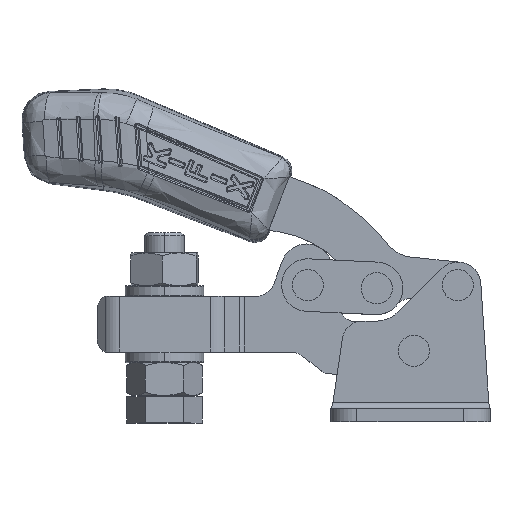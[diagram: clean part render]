
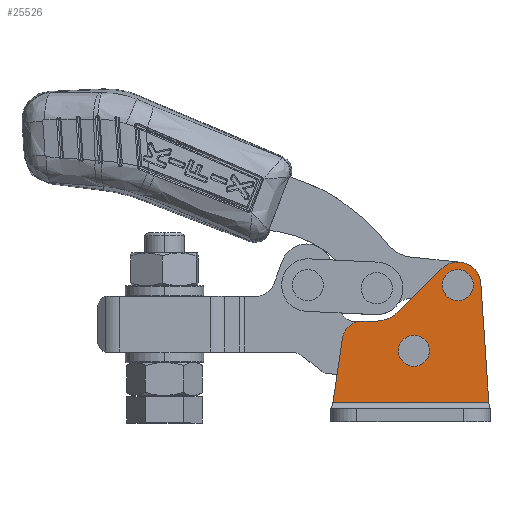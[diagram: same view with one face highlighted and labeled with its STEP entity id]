
A CAD part, top view. The second image highlights one B-rep face of the part: STEP entity #25526.
In plain terms, the highlighted planar face has unit normal (0, 0, 1).
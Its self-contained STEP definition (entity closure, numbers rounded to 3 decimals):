
#190 = DIRECTION ( 'NONE',  ( 0., 0., 1. ) ) ;
#612 = CARTESIAN_POINT ( 'NONE',  ( -5.321, 23.14, 0. ) ) ;
#789 = LINE ( 'NONE', #5361, #7930 ) ;
#920 = AXIS2_PLACEMENT_3D ( 'NONE', #5537, #24463, #8236 ) ;
#1231 = EDGE_CURVE ( 'NONE', #3444, #31361, #7489, .T. ) ;
#1831 = AXIS2_PLACEMENT_3D ( 'NONE', #27878, #11710, #30658 ) ;
#3003 = EDGE_CURVE ( 'NONE', #19864, #24804, #27358, .T. ) ;
#3444 = VERTEX_POINT ( 'NONE', #5146 ) ;
#3500 = CIRCLE ( 'NONE', #34537, 1.575 ) ;
#3759 = EDGE_CURVE ( 'NONE', #16040, #6485, #31187, .T. ) ;
#3969 = VERTEX_POINT ( 'NONE', #10411 ) ;
#4069 = EDGE_LOOP ( 'NONE', ( #33923, #34648, #5128, #34541, #11483, #22209, #22010, #32417 ) ) ;
#4071 = EDGE_LOOP ( 'NONE', ( #24483, #5575 ) ) ;
#4834 = CIRCLE ( 'NONE', #29549, 1.575 ) ;
#4857 = DIRECTION ( 'NONE',  ( 0., 0., 1. ) ) ;
#4987 = AXIS2_PLACEMENT_3D ( 'NONE', #14666, #33595, #17388 ) ;
#5128 = ORIENTED_EDGE ( 'NONE', *, *, #24209, .T. ) ;
#5132 = CARTESIAN_POINT ( 'NONE',  ( 2.134, 18.64, 0. ) ) ;
#5146 = CARTESIAN_POINT ( 'NONE',  ( 11.96, 10.827, 0. ) ) ;
#5361 = CARTESIAN_POINT ( 'NONE',  ( 4.786, 31.124, 0. ) ) ;
#5537 = CARTESIAN_POINT ( 'NONE',  ( 0.559, 18.64, 0. ) ) ;
#5575 = ORIENTED_EDGE ( 'NONE', *, *, #3003, .F. ) ;
#5715 = CIRCLE ( 'NONE', #22520, 3. ) ;
#6485 = VERTEX_POINT ( 'NONE', #17641 ) ;
#6698 = EDGE_CURVE ( 'NONE', #12925, #9263, #789, .T. ) ;
#7489 = LINE ( 'NONE', #19132, #21086 ) ;
#7930 = VECTOR ( 'NONE', #21593, 1000. ) ;
#8236 = DIRECTION ( 'NONE',  ( 1., 0., 0. ) ) ;
#8734 = DIRECTION ( 'NONE',  ( -0.143, -0.99, 0. ) ) ;
#9263 = VERTEX_POINT ( 'NONE', #24762 ) ;
#9718 = LINE ( 'NONE', #19598, #23295 ) ;
#10411 = CARTESIAN_POINT ( 'NONE',  ( -7.37, 23.14, 0. ) ) ;
#10659 = AXIS2_PLACEMENT_3D ( 'NONE', #29622, #13434, #32387 ) ;
#10900 = DIRECTION ( 'NONE',  ( -1., 0., 0. ) ) ;
#11248 = EDGE_CURVE ( 'NONE', #29792, #31361, #30655, .T. ) ;
#11345 = CARTESIAN_POINT ( 'NONE',  ( -1.016, 18.64, 0. ) ) ;
#11393 = VECTOR ( 'NONE', #28846, 1000. ) ;
#11483 = ORIENTED_EDGE ( 'NONE', *, *, #24843, .T. ) ;
#11589 = CARTESIAN_POINT ( 'NONE',  ( 10.743, 28.875, 0. ) ) ;
#11710 = DIRECTION ( 'NONE',  ( 0., 0., 1. ) ) ;
#11953 = DIRECTION ( 'NONE',  ( 1., 0., 0. ) ) ;
#12270 = LINE ( 'NONE', #34350, #11393 ) ;
#12897 = EDGE_CURVE ( 'NONE', #24804, #19864, #3500, .T. ) ;
#12925 = VERTEX_POINT ( 'NONE', #28429 ) ;
#13434 = DIRECTION ( 'NONE',  ( 0., 0., -1. ) ) ;
#14666 = CARTESIAN_POINT ( 'NONE',  ( 7.251, 28.64, 0. ) ) ;
#14789 = EDGE_CURVE ( 'NONE', #16204, #3969, #9718, .T. ) ;
#15010 = CARTESIAN_POINT ( 'NONE',  ( 0.559, 18.64, 0. ) ) ;
#15369 = EDGE_CURVE ( 'NONE', #3444, #28208, #12270, .T. ) ;
#16040 = VERTEX_POINT ( 'NONE', #23586 ) ;
#16204 = VERTEX_POINT ( 'NONE', #612 ) ;
#16429 = CARTESIAN_POINT ( 'NONE',  ( -7.37, 20.14, 0. ) ) ;
#16704 = EDGE_LOOP ( 'NONE', ( #30922, #23040 ) ) ;
#17388 = DIRECTION ( 'NONE',  ( 1., 0., 0. ) ) ;
#17641 = CARTESIAN_POINT ( 'NONE',  ( 8.826, 28.64, 0. ) ) ;
#17718 = DIRECTION ( 'NONE',  ( 1., 0., 0. ) ) ;
#19132 = CARTESIAN_POINT ( 'NONE',  ( -5.321, 10.827, 0. ) ) ;
#19169 = DIRECTION ( 'NONE',  ( 1., 0., 0. ) ) ;
#19598 = CARTESIAN_POINT ( 'NONE',  ( -5.321, 23.14, 0. ) ) ;
#19864 = VERTEX_POINT ( 'NONE', #11345 ) ;
#21086 = VECTOR ( 'NONE', #10900, 1000. ) ;
#21098 = CARTESIAN_POINT ( 'NONE',  ( 7.251, 28.64, 0. ) ) ;
#21593 = DIRECTION ( 'NONE',  ( -0.71, -0.704, 0. ) ) ;
#22010 = ORIENTED_EDGE ( 'NONE', *, *, #25815, .T. ) ;
#22209 = ORIENTED_EDGE ( 'NONE', *, *, #14789, .T. ) ;
#22520 = AXIS2_PLACEMENT_3D ( 'NONE', #16429, #190, #19169 ) ;
#23040 = ORIENTED_EDGE ( 'NONE', *, *, #3759, .F. ) ;
#23199 = AXIS2_PLACEMENT_3D ( 'NONE', #33528, #28126, #11953 ) ;
#23295 = VECTOR ( 'NONE', #33095, 1000. ) ;
#23437 = VECTOR ( 'NONE', #8734, 1000. ) ;
#23586 = CARTESIAN_POINT ( 'NONE',  ( 5.676, 28.64, 0. ) ) ;
#23676 = CARTESIAN_POINT ( 'NONE',  ( -11.752, 10.827, 0. ) ) ;
#23790 = DIRECTION ( 'NONE',  ( 1., 0., 0. ) ) ;
#24209 = EDGE_CURVE ( 'NONE', #28208, #12925, #25261, .T. ) ;
#24463 = DIRECTION ( 'NONE',  ( 0., 0., 1. ) ) ;
#24483 = ORIENTED_EDGE ( 'NONE', *, *, #12897, .F. ) ;
#24762 = CARTESIAN_POINT ( 'NONE',  ( -1.799, 24.591, 0. ) ) ;
#24804 = VERTEX_POINT ( 'NONE', #5132 ) ;
#24843 = EDGE_CURVE ( 'NONE', #9263, #16204, #33341, .T. ) ;
#24948 = CARTESIAN_POINT ( 'NONE',  ( -12.141, 8.14, 0. ) ) ;
#25261 = CIRCLE ( 'NONE', #1831, 3.5 ) ;
#25416 = PLANE ( 'NONE',  #23199 ) ;
#25526 = ADVANCED_FACE ( 'NONE', ( #26046, #33309, #32438 ), #25416, .T. ) ;
#25815 = EDGE_CURVE ( 'NONE', #3969, #29792, #5715, .T. ) ;
#26046 = FACE_OUTER_BOUND ( 'NONE', #4069, .T. ) ;
#26141 = CARTESIAN_POINT ( 'NONE',  ( -10.339, 20.57, 0. ) ) ;
#26587 = EDGE_CURVE ( 'NONE', #6485, #16040, #4834, .T. ) ;
#27358 = CIRCLE ( 'NONE', #920, 1.575 ) ;
#27878 = CARTESIAN_POINT ( 'NONE',  ( 7.251, 28.64, 0. ) ) ;
#28126 = DIRECTION ( 'NONE',  ( 0., 0., 1. ) ) ;
#28208 = VERTEX_POINT ( 'NONE', #11589 ) ;
#28429 = CARTESIAN_POINT ( 'NONE',  ( 4.786, 31.124, 0. ) ) ;
#28846 = DIRECTION ( 'NONE',  ( -0.067, 0.998, 0. ) ) ;
#29549 = AXIS2_PLACEMENT_3D ( 'NONE', #21098, #4857, #23790 ) ;
#29622 = CARTESIAN_POINT ( 'NONE',  ( -5.321, 28.14, 0. ) ) ;
#29792 = VERTEX_POINT ( 'NONE', #26141 ) ;
#30655 = LINE ( 'NONE', #24948, #23437 ) ;
#30658 = DIRECTION ( 'NONE',  ( 1., 0., 0. ) ) ;
#30922 = ORIENTED_EDGE ( 'NONE', *, *, #26587, .F. ) ;
#31187 = CIRCLE ( 'NONE', #4987, 1.575 ) ;
#31361 = VERTEX_POINT ( 'NONE', #23676 ) ;
#32387 = DIRECTION ( 'NONE',  ( 1., 0., 0. ) ) ;
#32417 = ORIENTED_EDGE ( 'NONE', *, *, #11248, .T. ) ;
#32438 = FACE_BOUND ( 'NONE', #4071, .T. ) ;
#33095 = DIRECTION ( 'NONE',  ( -1., 0., 0. ) ) ;
#33309 = FACE_BOUND ( 'NONE', #16704, .T. ) ;
#33341 = CIRCLE ( 'NONE', #10659, 5. ) ;
#33528 = CARTESIAN_POINT ( 'NONE',  ( -5.321, 28.14, 0. ) ) ;
#33595 = DIRECTION ( 'NONE',  ( 0., 0., 1. ) ) ;
#33923 = ORIENTED_EDGE ( 'NONE', *, *, #1231, .F. ) ;
#33941 = DIRECTION ( 'NONE',  ( 0., 0., 1. ) ) ;
#34350 = CARTESIAN_POINT ( 'NONE',  ( 12.141, 8.14, 0. ) ) ;
#34537 = AXIS2_PLACEMENT_3D ( 'NONE', #15010, #33941, #17718 ) ;
#34541 = ORIENTED_EDGE ( 'NONE', *, *, #6698, .T. ) ;
#34648 = ORIENTED_EDGE ( 'NONE', *, *, #15369, .T. ) ;
